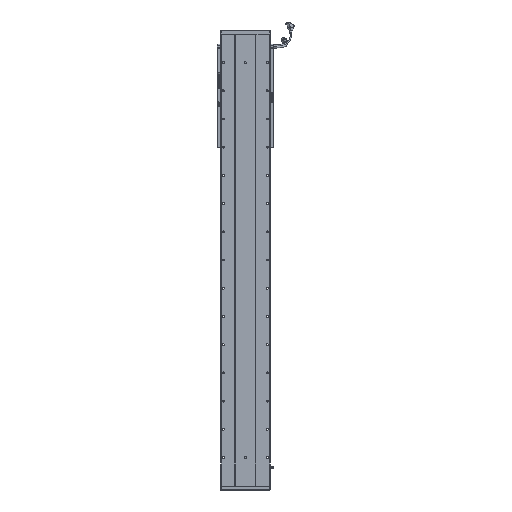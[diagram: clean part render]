
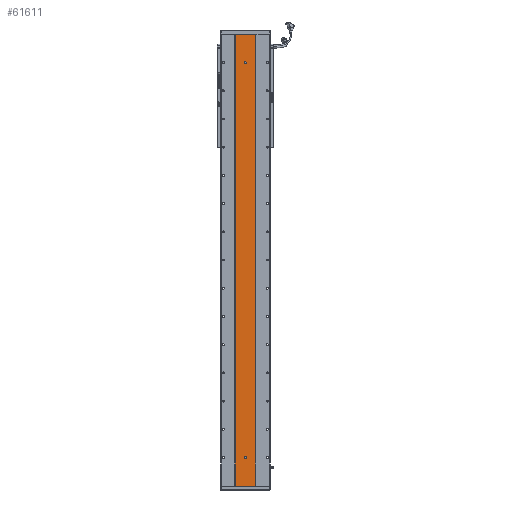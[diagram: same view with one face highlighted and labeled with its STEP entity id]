
A CAD part, front view. The second image highlights one B-rep face of the part: STEP entity #61611.
In plain terms, the highlighted planar face has unit normal (0, -1, 0).
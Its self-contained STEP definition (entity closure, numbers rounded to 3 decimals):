
#2847 = VERTEX_POINT ( 'NONE', #48064 ) ;
#3400 = CARTESIAN_POINT ( 'NONE',  ( 3277.529, 1415.701, 99.5 ) ) ;
#3871 = CIRCLE ( 'NONE', #11000, 3. ) ;
#4284 = EDGE_CURVE ( 'NONE', #93865, #57282, #103529, .T. ) ;
#4663 = CARTESIAN_POINT ( 'NONE',  ( 3280.529, 1415.701, 102.5 ) ) ;
#6384 = CARTESIAN_POINT ( 'NONE',  ( 3316.311, 1415.701, 1602. ) ) ;
#7116 = CARTESIAN_POINT ( 'NONE',  ( 3280.529, 1415.701, 1501. ) ) ;
#7758 = LINE ( 'NONE', #79479, #67311 ) ;
#7852 = CARTESIAN_POINT ( 'NONE',  ( 3244.748, 1415.701, 0. ) ) ;
#9443 = CARTESIAN_POINT ( 'NONE',  ( 3280.529, 1415.701, 1498. ) ) ;
#11000 = AXIS2_PLACEMENT_3D ( 'NONE', #7116, #15972, #97229 ) ;
#11074 = LINE ( 'NONE', #80711, #41451 ) ;
#13676 = AXIS2_PLACEMENT_3D ( 'NONE', #49267, #98306, #32991 ) ;
#14866 = ORIENTED_EDGE ( 'NONE', *, *, #88906, .F. ) ;
#15098 = CARTESIAN_POINT ( 'NONE',  ( 3283.529, 1415.701, 102.5 ) ) ;
#15208 = EDGE_LOOP ( 'NONE', ( #41467, #14866 ) ) ;
#15972 = DIRECTION ( 'NONE',  ( 0., -1., 0. ) ) ;
#16585 = CARTESIAN_POINT ( 'NONE',  ( 3283.529, 1415.701, 99.5 ) ) ;
#17614 = EDGE_CURVE ( 'NONE', #2847, #82314, #88090, .T. ) ;
#17845 = CARTESIAN_POINT ( 'NONE',  ( 3244.748, 1415.701, 1602. ) ) ;
#18812 = DIRECTION ( 'NONE',  ( 1., 0., 0. ) ) ;
#20631 = DIRECTION ( 'NONE',  ( 0., 0., -1. ) ) ;
#21595 = VECTOR ( 'NONE', #18812, 1000. ) ;
#22041 = CARTESIAN_POINT ( 'NONE',  ( 3280.529, 1415.701, 99.5 ) ) ;
#27083 = VECTOR ( 'NONE', #42223, 1000. ) ;
#29868 = AXIS2_PLACEMENT_3D ( 'NONE', #89561, #32434, #56834 ) ;
#30034 = CARTESIAN_POINT ( 'NONE',  ( 3244.748, 1415.701, 1602. ) ) ;
#31927 = VERTEX_POINT ( 'NONE', #102046 ) ;
#32434 = DIRECTION ( 'NONE',  ( 0., -1., 0. ) ) ;
#32627 = CIRCLE ( 'NONE', #29868, 3. ) ;
#32991 = DIRECTION ( 'NONE',  ( 0., 0., -1. ) ) ;
#34835 = DIRECTION ( 'NONE',  ( 0., 0., 1. ) ) ;
#37394 = CARTESIAN_POINT ( 'NONE',  ( 3280.529, 1415.701, 96.5 ) ) ;
#37906 = VERTEX_POINT ( 'NONE', #102499 ) ;
#37953 = DIRECTION ( 'NONE',  ( 0., 0., -1. ) ) ;
#38030 = LINE ( 'NONE', #83048, #21595 ) ;
#38559 = CIRCLE ( 'NONE', #13676, 3. ) ;
#40106 = AXIS2_PLACEMENT_3D ( 'NONE', #22041, #70225, #37953 ) ;
#41451 = VECTOR ( 'NONE', #72876, 1000. ) ;
#41467 = ORIENTED_EDGE ( 'NONE', *, *, #69275, .F. ) ;
#41567 = ORIENTED_EDGE ( 'NONE', *, *, #64452, .F. ) ;
#42223 = DIRECTION ( 'NONE',  ( 0., 0., -1. ) ) ;
#42300 = EDGE_LOOP ( 'NONE', ( #85612, #51231, #87985, #98170 ) ) ;
#44321 = FACE_BOUND ( 'NONE', #15208, .T. ) ;
#44864 = EDGE_CURVE ( 'NONE', #75321, #57935, #32627, .T. ) ;
#44958 = EDGE_CURVE ( 'NONE', #57935, #88275, #11074, .T. ) ;
#46797 = DIRECTION ( 'NONE',  ( 1., 0., 0. ) ) ;
#47559 = CIRCLE ( 'NONE', #89399, 3. ) ;
#48064 = CARTESIAN_POINT ( 'NONE',  ( 3277.529, 1415.701, 102.5 ) ) ;
#48277 = AXIS2_PLACEMENT_3D ( 'NONE', #17845, #74562, #34835 ) ;
#49267 = CARTESIAN_POINT ( 'NONE',  ( 3280.529, 1415.701, 1501. ) ) ;
#49707 = EDGE_CURVE ( 'NONE', #82314, #75321, #80674, .T. ) ;
#51231 = ORIENTED_EDGE ( 'NONE', *, *, #104463, .F. ) ;
#52377 = CARTESIAN_POINT ( 'NONE',  ( 3244.748, 1415.701, 1602. ) ) ;
#55086 = ORIENTED_EDGE ( 'NONE', *, *, #44864, .F. ) ;
#56834 = DIRECTION ( 'NONE',  ( 0., 0., -1. ) ) ;
#57282 = VERTEX_POINT ( 'NONE', #7852 ) ;
#57935 = VERTEX_POINT ( 'NONE', #16585 ) ;
#58191 = PLANE ( 'NONE',  #48277 ) ;
#61611 = ADVANCED_FACE ( 'NONE', ( #97744, #44321, #77307 ), #58191, .F. ) ;
#61650 = DIRECTION ( 'NONE',  ( 0., 0., -1. ) ) ;
#64034 = VECTOR ( 'NONE', #85091, 1000. ) ;
#64452 = EDGE_CURVE ( 'NONE', #88275, #2847, #47559, .T. ) ;
#65378 = ORIENTED_EDGE ( 'NONE', *, *, #44958, .F. ) ;
#66740 = LINE ( 'NONE', #6384, #74383 ) ;
#67311 = VECTOR ( 'NONE', #46797, 1000. ) ;
#69275 = EDGE_CURVE ( 'NONE', #79797, #37906, #3871, .T. ) ;
#70225 = DIRECTION ( 'NONE',  ( 0., -1., 0. ) ) ;
#72876 = DIRECTION ( 'NONE',  ( 0., 0., 1. ) ) ;
#73095 = ORIENTED_EDGE ( 'NONE', *, *, #49707, .F. ) ;
#74383 = VECTOR ( 'NONE', #61650, 1000. ) ;
#74562 = DIRECTION ( 'NONE',  ( 0., 1., 0. ) ) ;
#75321 = VERTEX_POINT ( 'NONE', #37394 ) ;
#77307 = FACE_OUTER_BOUND ( 'NONE', #42300, .T. ) ;
#78129 = EDGE_LOOP ( 'NONE', ( #73095, #82151, #41567, #65378, #55086 ) ) ;
#78596 = EDGE_CURVE ( 'NONE', #93865, #91470, #38030, .T. ) ;
#79479 = CARTESIAN_POINT ( 'NONE',  ( 3244.748, 1415.701, 0. ) ) ;
#79797 = VERTEX_POINT ( 'NONE', #9443 ) ;
#80674 = CIRCLE ( 'NONE', #40106, 3. ) ;
#80711 = CARTESIAN_POINT ( 'NONE',  ( 3283.529, 1415.701, 102.5 ) ) ;
#82151 = ORIENTED_EDGE ( 'NONE', *, *, #17614, .F. ) ;
#82314 = VERTEX_POINT ( 'NONE', #3400 ) ;
#83048 = CARTESIAN_POINT ( 'NONE',  ( 3244.748, 1415.701, 1602. ) ) ;
#84098 = CARTESIAN_POINT ( 'NONE',  ( 3277.529, 1415.701, 102.5 ) ) ;
#85091 = DIRECTION ( 'NONE',  ( 0., 0., -1. ) ) ;
#85188 = DIRECTION ( 'NONE',  ( 0., -1., 0. ) ) ;
#85612 = ORIENTED_EDGE ( 'NONE', *, *, #100461, .T. ) ;
#86271 = CARTESIAN_POINT ( 'NONE',  ( 3316.311, 1415.701, 1602. ) ) ;
#87985 = ORIENTED_EDGE ( 'NONE', *, *, #78596, .F. ) ;
#88090 = LINE ( 'NONE', #84098, #27083 ) ;
#88275 = VERTEX_POINT ( 'NONE', #15098 ) ;
#88906 = EDGE_CURVE ( 'NONE', #37906, #79797, #38559, .T. ) ;
#89399 = AXIS2_PLACEMENT_3D ( 'NONE', #4663, #85188, #20631 ) ;
#89561 = CARTESIAN_POINT ( 'NONE',  ( 3280.529, 1415.701, 99.5 ) ) ;
#91470 = VERTEX_POINT ( 'NONE', #86271 ) ;
#93865 = VERTEX_POINT ( 'NONE', #30034 ) ;
#97229 = DIRECTION ( 'NONE',  ( 0., 0., -1. ) ) ;
#97744 = FACE_BOUND ( 'NONE', #78129, .T. ) ;
#98170 = ORIENTED_EDGE ( 'NONE', *, *, #4284, .T. ) ;
#98306 = DIRECTION ( 'NONE',  ( 0., -1., 0. ) ) ;
#100461 = EDGE_CURVE ( 'NONE', #57282, #31927, #7758, .T. ) ;
#102046 = CARTESIAN_POINT ( 'NONE',  ( 3316.311, 1415.701, 0. ) ) ;
#102499 = CARTESIAN_POINT ( 'NONE',  ( 3280.529, 1415.701, 1504. ) ) ;
#103529 = LINE ( 'NONE', #52377, #64034 ) ;
#104463 = EDGE_CURVE ( 'NONE', #91470, #31927, #66740, .T. ) ;
